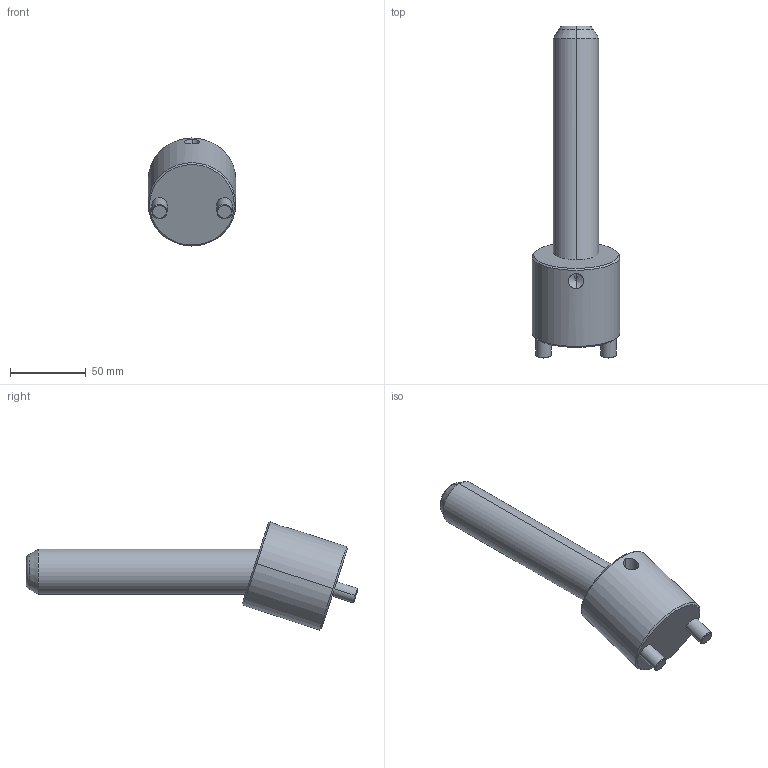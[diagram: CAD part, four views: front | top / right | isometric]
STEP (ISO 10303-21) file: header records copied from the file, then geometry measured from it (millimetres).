
FILE_DESCRIPTION(('CATIA V5 STEP Exchange'),'2;1');
FILE_NAME('C:\Users\Raffaele\Desktop\3D BOLEX\3D FILES CF BOLEX\19-INCLINED ASSEMBLY REF_CI\CI1830150.stp','2019-06-24T07:47:14+00:00',('none'),('none'),'CATIA Version 5 Release 20 GA (IN-10)','CATIA V5 STEP AP203','none');
FILE_SCHEMA(('CONFIG_CONTROL_DESIGN'));
Length unit declared in the file: millimetre
Products named in the file (1): CI1830150
Assembly tree (2 placements, depth 2):
  CI1830150
    #58
    #584
Bounding box: 58 x 219.82 x 71.54 mm (x, y, z)
Volume: 249760.1 mm3; surface area: 40187.6 mm2
Topology: 2 solids, 2 shells, 39 faces, 82 edges, 47 vertices
Faces by surface type: cone 14, cylinder 14, plane 7, torus 4
Entity records: 1557 total; most frequent: CARTESIAN_POINT 696, ORIENTED_EDGE 160, DIRECTION 146, EDGE_CURVE 80, AXIS2_PLACEMENT_3D 73, VERTEX_POINT 47, EDGE_LOOP 43, ADVANCED_FACE 39
